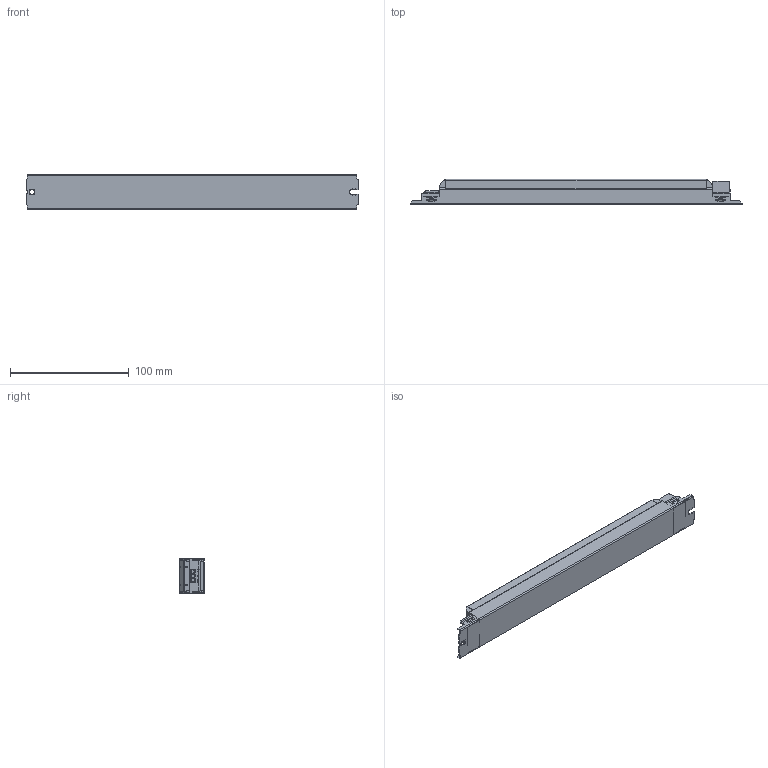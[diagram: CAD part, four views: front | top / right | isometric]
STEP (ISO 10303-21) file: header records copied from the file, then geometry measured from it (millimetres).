
FILE_DESCRIPTION (( 'STEP AP214' ), '1' );
FILE_NAME ('4168222swm000.step', '2019-11-23T10:05:35', ( 'OSRAM' ), ( 'OSRAM' ), 'SwSTEP 2.0', 'SolidWorks 2017', '' );
FILE_SCHEMA (( 'AUTOMOTIVE_DESIGN' ));
Length unit declared in the file: millimetre
Products named in the file (1): 4168222swm000
Bounding box: 279 x 21 x 30 mm (x, y, z)
Volume: 147127.6 mm3; surface area: 34094.9 mm2
Topology: 1 solids, 1 shells, 760 faces, 2109 edges, 1362 vertices
Faces by surface type: plane 515, cylinder 201, bspline 22, cone 18, sphere 4
Entity records: 32848 total; most frequent: CARTESIAN_POINT 5310, ORIENTED_EDGE 4210, DIRECTION 3727, EDGE_CURVE 2105, LINE 1529, VECTOR 1529, VERTEX_POINT 1362, AXIS2_PLACEMENT_3D 1099
